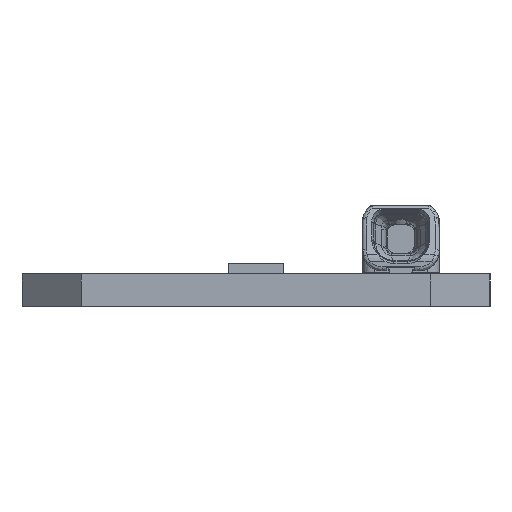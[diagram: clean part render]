
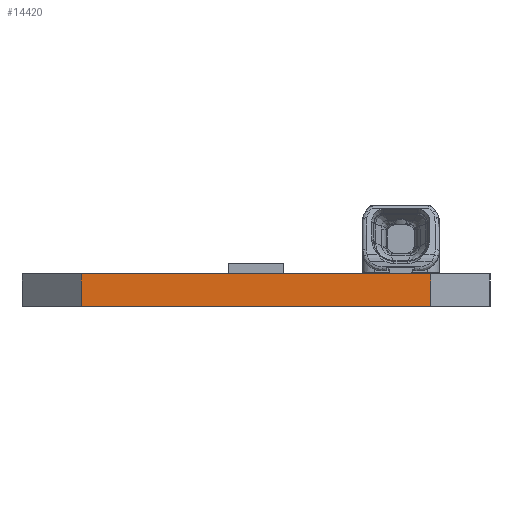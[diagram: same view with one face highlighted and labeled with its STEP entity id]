
A CAD part, left-side view. The second image highlights one B-rep face of the part: STEP entity #14420.
In plain terms, the highlighted planar face has unit normal (-1, 0, 0).
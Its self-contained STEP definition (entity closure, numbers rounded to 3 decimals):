
#93=DIRECTION('',(0.,1.,0.));
#94=VECTOR('',#93,17.6);
#95=CARTESIAN_POINT('',(-139.5,-8.8,0.));
#96=LINE('',#95,#94);
#404=DIRECTION('',(0.,0.,1.));
#405=VECTOR('',#404,1.65);
#406=CARTESIAN_POINT('',(-139.5,-8.8,0.));
#407=LINE('',#406,#405);
#411=DIRECTION('',(0.,1.,0.));
#412=VECTOR('',#411,17.6);
#413=CARTESIAN_POINT('',(-139.5,-8.8,1.65));
#414=LINE('',#413,#412);
#1250=DIRECTION('',(0.,0.,1.));
#1251=VECTOR('',#1250,1.65);
#1252=CARTESIAN_POINT('',(-139.5,8.8,0.));
#1253=LINE('',#1252,#1251);
#12672=CARTESIAN_POINT('',(-139.5,-8.8,0.));
#12674=VERTEX_POINT('',#12672);
#12723=CARTESIAN_POINT('',(-139.5,8.8,0.));
#12724=CARTESIAN_POINT('',(-139.5,8.8,1.65));
#12725=VERTEX_POINT('',#12723);
#12726=VERTEX_POINT('',#12724);
#12733=CARTESIAN_POINT('',(-139.5,-8.8,1.65));
#12734=VERTEX_POINT('',#12733);
#14406=CARTESIAN_POINT('',(-139.5,8.8,1.65));
#14407=DIRECTION('',(-1.,0.,0.));
#14408=DIRECTION('',(0.,0.,1.));
#14409=AXIS2_PLACEMENT_3D('',#14406,#14407,#14408);
#14410=PLANE('',#14409);
#14412=ORIENTED_EDGE('',*,*,#14411,.F.);
#14413=ORIENTED_EDGE('',*,*,#14303,.T.);
#14415=ORIENTED_EDGE('',*,*,#14414,.T.);
#14417=ORIENTED_EDGE('',*,*,#14416,.F.);
#14418=EDGE_LOOP('',(#14412,#14413,#14415,#14417));
#14419=FACE_OUTER_BOUND('',#14418,.F.);
#14303=EDGE_CURVE('',#12674,#12725,#96,.T.);
#14411=EDGE_CURVE('',#12674,#12734,#407,.T.);
#14414=EDGE_CURVE('',#12725,#12726,#1253,.T.);
#14416=EDGE_CURVE('',#12734,#12726,#414,.T.);
#14420=ADVANCED_FACE('',(#14419),#14410,.T.);
